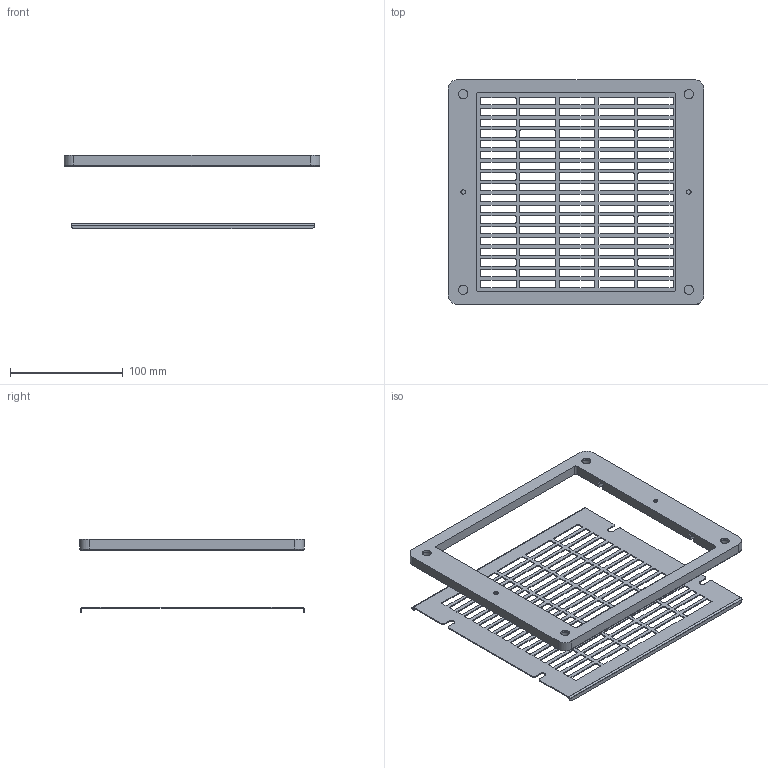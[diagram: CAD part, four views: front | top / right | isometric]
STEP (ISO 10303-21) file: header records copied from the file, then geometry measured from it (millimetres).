
FILE_DESCRIPTION (( 'STEP AP214' ), '1' );
FILE_NAME ('T6EMC.STEP', '2018-08-29T21:18:50', ( '' ), ( '' ), 'SwSTEP 2.0', 'SolidWorks 2016', '' );
FILE_SCHEMA (( 'AUTOMOTIVE_DESIGN' ));
Length unit declared in the file: inch
Products named in the file (3): 87556655; T6EMC; 87742413
Assembly tree (2 placements, depth 2):
  T6EMC
    87556655
    87742413
Bounding box: 226.69 x 199.26 x 65.09 mm (x, y, z)
Volume: 148782 mm3; surface area: 103010.3 mm2
Topology: 2 solids, 2 shells, 884 faces, 2598 edges, 1724 vertices
Faces by surface type: plane 446, cylinder 430, cone 8
Entity records: 30118 total; most frequent: DIRECTION 5236, CARTESIAN_POINT 5235, ORIENTED_EDGE 5196, EDGE_CURVE 2598, AXIS2_PLACEMENT_3D 1757, VERTEX_POINT 1724, LINE 1722, VECTOR 1722
